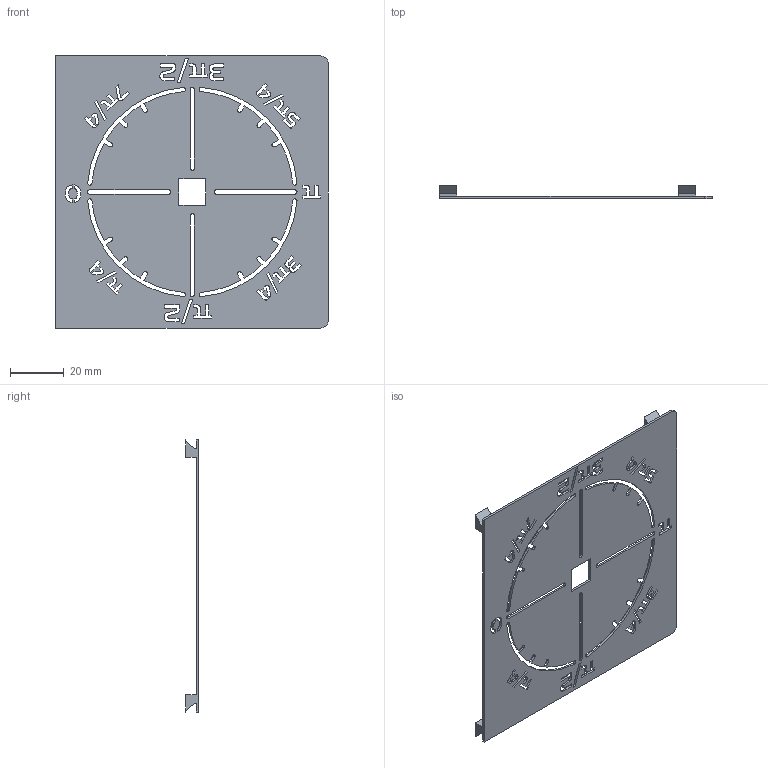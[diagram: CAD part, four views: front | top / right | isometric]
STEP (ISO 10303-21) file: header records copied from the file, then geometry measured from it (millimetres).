
FILE_DESCRIPTION (( 'STEP AP214' ), '1' );
FILE_NAME ('1 - Top Face Left (Radians).STEP', '2022-11-25T05:42:28', ( '' ), ( '' ), 'SwSTEP 2.0', 'SolidWorks 2021', '' );
FILE_SCHEMA (( 'AUTOMOTIVE_DESIGN' ));
Length unit declared in the file: inch
Products named in the file (1): 1 - Top Face Left (Radians)
Bounding box: 101.35 x 4.76 x 101.09 mm (x, y, z)
Volume: 7764.5 mm3; surface area: 20365.5 mm2
Topology: 1 solids, 1 shells, 470 faces, 1398 edges, 932 vertices
Faces by surface type: plane 312, bspline 96, cylinder 62
Entity records: 19850 total; most frequent: CARTESIAN_POINT 7585, ORIENTED_EDGE 2796, DIRECTION 2080, EDGE_CURVE 1398, VECTOR 1082, LINE 1082, VERTEX_POINT 932, EDGE_LOOP 548
